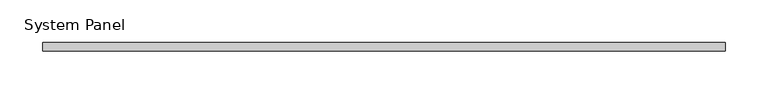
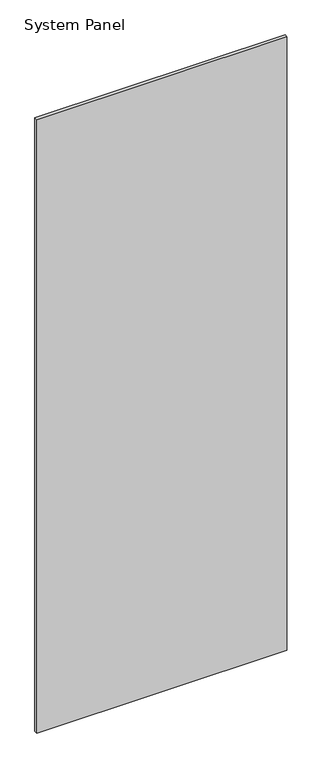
"""IFC4 building model written with IfcOpenShell, lengths in millimetres: plate geometry, System Panel : стекло_смещение_0."""

from ifc_helpers import new_model, si_unit, origin, origin_with_axes, place, context, project, spatial, polyline, outline, extrude, source, transform, mapped, element, save


def system_panel_eb922311(model_context):
    return source(origin(), model_context, "Body", "SweptSolid", [
        extrude(outline(polyline([(400.0, -5.0), (-400.0, -5.0), (-400.0, 5.0), (400.0, 5.0), (400.0, -5.0)])), origin_with_axes(), (0.0, 0.0, 1.0), 2075.0),
    ])


if __name__ == "__main__":
    model = new_model("IFC4")
    model_context = context("Model", 3, world=origin())
    ifc_project = project(units=[si_unit("LENGTHUNIT", "METRE", prefix="MILLI")], contexts=[model_context])
    site = spatial("IfcSite", under=ifc_project)
    building = spatial("IfcBuilding", under=site)
    placement = place(None, origin())
    system_panel_shape = system_panel_eb922311(model_context)
    element("IfcPlate", 1, ObjectType="System Panel : стекло_смещение_0", at=placement, inside=building, context=model_context, shape_type="MappedRepresentation", body=[
        mapped(system_panel_shape, transform((0.0, 0.0, 0.0), x_axis=(1.0, 0.0, 0.0), y_axis=(0.0, 1.0, 0.0), z_axis=(0.0, 0.0, 1.0))),
    ])
    save(model, "model.ifc")
